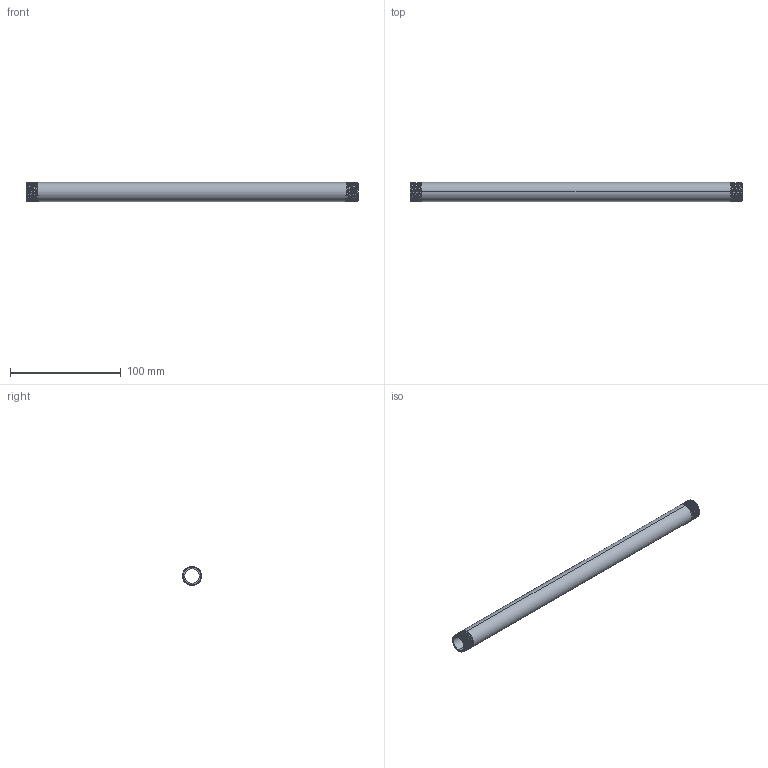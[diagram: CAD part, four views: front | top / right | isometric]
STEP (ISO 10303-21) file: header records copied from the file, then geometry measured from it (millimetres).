
FILE_DESCRIPTION (( 'STEP AP203' ), '1' );
FILE_NAME ('3D_R210_3-8x300_17185945.STEP', '2024-08-16T14:22:11', ( '' ), ( '' ), 'SwSTEP 2.0', 'SolidWorks 2024', '' );
FILE_SCHEMA (( 'CONFIG_CONTROL_DESIGN' ));
Length unit declared in the file: millimetre
Products named in the file (1): 3D_R210_3-8x300_17185945
Bounding box: 300 x 17.2 x 17.2 mm (x, y, z)
Volume: 28168.5 mm3; surface area: 29314.8 mm2
Topology: 1 solids, 1 shells, 52 faces, 144 edges, 94 vertices
Faces by surface type: cone 38, bspline 6, cylinder 4, plane 4
Entity records: 7293 total; most frequent: CARTESIAN_POINT 6071, ORIENTED_EDGE 288, DIRECTION 166, EDGE_CURVE 144, VERTEX_POINT 94, B_SPLINE_CURVE_WITH_KNOTS 76, AXIS2_PLACEMENT_3D 59, EDGE_LOOP 54
